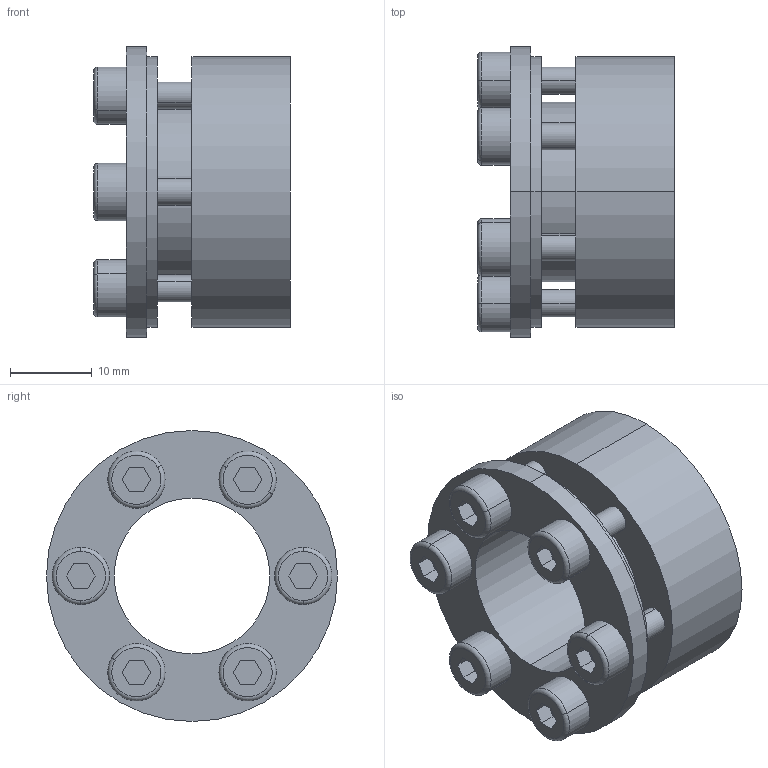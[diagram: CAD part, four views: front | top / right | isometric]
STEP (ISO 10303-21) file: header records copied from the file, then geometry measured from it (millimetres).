
FILE_DESCRIPTION (( 'STEP AP203' ), '1' );
FILE_NAME ('SK-19.STEP', '2009-09-29T17:28:49', ( 'USER' ), ( 'HOME' ), 'SwSTEP 2.0', 'SolidWorks 2007', '' );
FILE_SCHEMA (( 'CONFIG_CONTROL_DESIGN' ));
Length unit declared in the file: millimetre
Products named in the file (1): SK-19
Bounding box: 24 x 35.5 x 35.5 mm (x, y, z)
Volume: 10262.1 mm3; surface area: 7991.6 mm2
Topology: 7 solids, 7 shells, 135 faces, 306 edges, 200 vertices
Faces by surface type: plane 65, cylinder 58, torus 12
Entity records: 3941 total; most frequent: DIRECTION 718, CARTESIAN_POINT 642, ORIENTED_EDGE 612, EDGE_CURVE 306, AXIS2_PLACEMENT_3D 276, VERTEX_POINT 200, EDGE_LOOP 176, LINE 166
